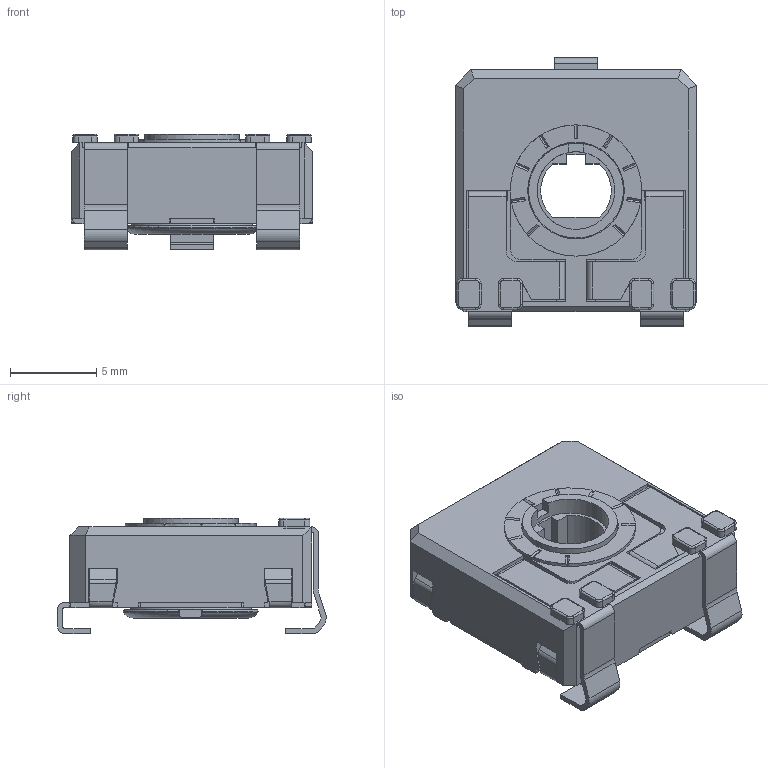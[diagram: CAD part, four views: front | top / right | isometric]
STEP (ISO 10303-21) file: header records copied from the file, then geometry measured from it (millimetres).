
FILE_DESCRIPTION(/* description */ (''),/* implementation_level */ '2;1');
FILE_NAME(/* name */ '\\SERVERACP\intercambio\Ignacio Santa Cecilia\Nueva WEB 2025\CA14 - CE14\CA14TVSMD.stp',/* time_stamp */ '2025-07-01T12:10:45+02:00',/* author */ ('CEM'),/* organization */ (''),/* preprocessor_version */ 'ST-DEVELOPER v17',/* originating_system */ 'Autodesk Inventor 2018',/* authorisation */ '');
FILE_SCHEMA (('AUTOMOTIVE_DESIGN { 1 0 10303 214 3 1 1 }'));
Length unit declared in the file: millimetre
Products named in the file (1): CARCASA CA14 PGA
Bounding box: 14 x 15.55 x 6.7 mm (x, y, z)
Volume: 535.8 mm3; surface area: 1476.3 mm2
Topology: 1 solids, 1 shells, 555 faces, 1575 edges, 1007 vertices
Faces by surface type: plane 413, cylinder 105, torus 23, bspline 8, cone 6
Full cylindrical faces by diameter (mm): 4.5 x1, 5.5 x1, 5.6 x1, 5.752 x1, 6.8 x1, 7.6 x1
Entity records: 18247 total; most frequent: CARTESIAN_POINT 3435, ORIENTED_EDGE 3150, DIRECTION 2921, EDGE_CURVE 1575, LINE 1235, VECTOR 1235, VERTEX_POINT 1007, AXIS2_PLACEMENT_3D 843
